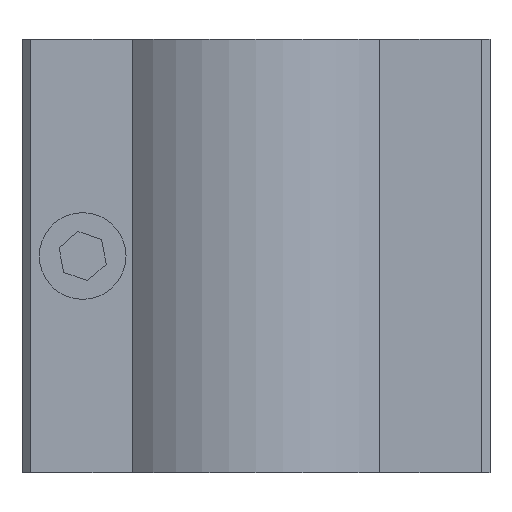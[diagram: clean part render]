
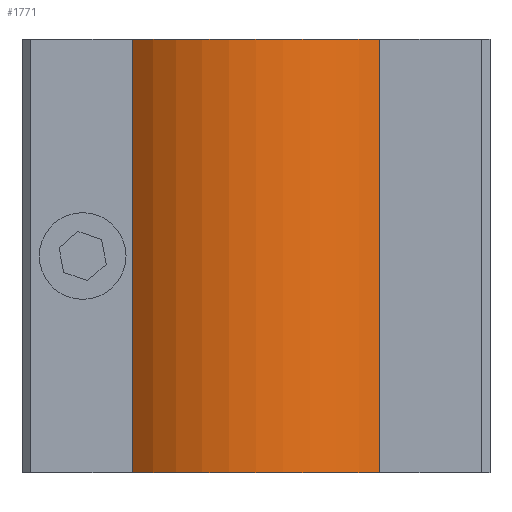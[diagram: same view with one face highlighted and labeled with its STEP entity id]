
A CAD part, front view. The second image highlights one B-rep face of the part: STEP entity #1771.
In plain terms, the highlighted cylindrical face has radius 20 mm (diameter 40 mm), a partial arc.
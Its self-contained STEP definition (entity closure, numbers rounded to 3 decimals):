
#1098=CARTESIAN_POINT('',(-14.992,-9.802,48.));
#1099=VERTEX_POINT('',#1098);
#1106=CARTESIAN_POINT('',(13.574,-9.802,48.));
#1107=VERTEX_POINT('',#1106);
#1108=CARTESIAN_POINT('',(-0.709,4.198,48.));
#1109=DIRECTION('',(0.0,0.0,-1.0));
#1110=DIRECTION('',(0.714,0.7,0.0));
#1111=AXIS2_PLACEMENT_3D('',#1108,#1109,#1110);
#1112=CIRCLE('',#1111,20.0);
#1113=EDGE_CURVE('',#1107,#1099,#1112,.T.);
#1666=CARTESIAN_POINT('',(13.574,-9.802,-2.));
#1667=VERTEX_POINT('',#1666);
#1674=CARTESIAN_POINT('',(-14.992,-9.802,-2.));
#1675=VERTEX_POINT('',#1674);
#1676=CARTESIAN_POINT('',(-0.709,4.198,-2.));
#1677=DIRECTION('',(0.0,0.0,1.0));
#1678=DIRECTION('',(0.714,0.7,0.0));
#1679=AXIS2_PLACEMENT_3D('',#1676,#1677,#1678);
#1680=CIRCLE('',#1679,20.0);
#1681=EDGE_CURVE('',#1675,#1667,#1680,.T.);
#1744=CARTESIAN_POINT('',(13.574,-9.802,48.));
#1745=DIRECTION('',(0.0,0.0,-1.0));
#1746=VECTOR('',#1745,50.);
#1747=LINE('',#1744,#1746);
#1748=EDGE_CURVE('',#1107,#1667,#1747,.T.);
#1755=CARTESIAN_POINT('',(-0.709,4.198,23.));
#1756=DIRECTION('',(0.0,0.0,1.0));
#1757=DIRECTION('',(0.714,0.7,0.0));
#1758=AXIS2_PLACEMENT_3D('',#1755,#1756,#1757);
#1759=CYLINDRICAL_SURFACE('',#1758,20.0);
#1760=ORIENTED_EDGE('',*,*,#1113,.T.);
#1761=CARTESIAN_POINT('',(-14.992,-9.802,48.));
#1762=DIRECTION('',(0.0,0.0,-1.0));
#1763=VECTOR('',#1762,50.);
#1764=LINE('',#1761,#1763);
#1765=EDGE_CURVE('',#1099,#1675,#1764,.T.);
#1766=ORIENTED_EDGE('',*,*,#1765,.T.);
#1767=ORIENTED_EDGE('',*,*,#1681,.T.);
#1768=ORIENTED_EDGE('',*,*,#1748,.F.);
#1769=EDGE_LOOP('',(#1760,#1766,#1767,#1768));
#1770=FACE_OUTER_BOUND('',#1769,.T.);
#1771=ADVANCED_FACE('',(#1770),#1759,.T.);
